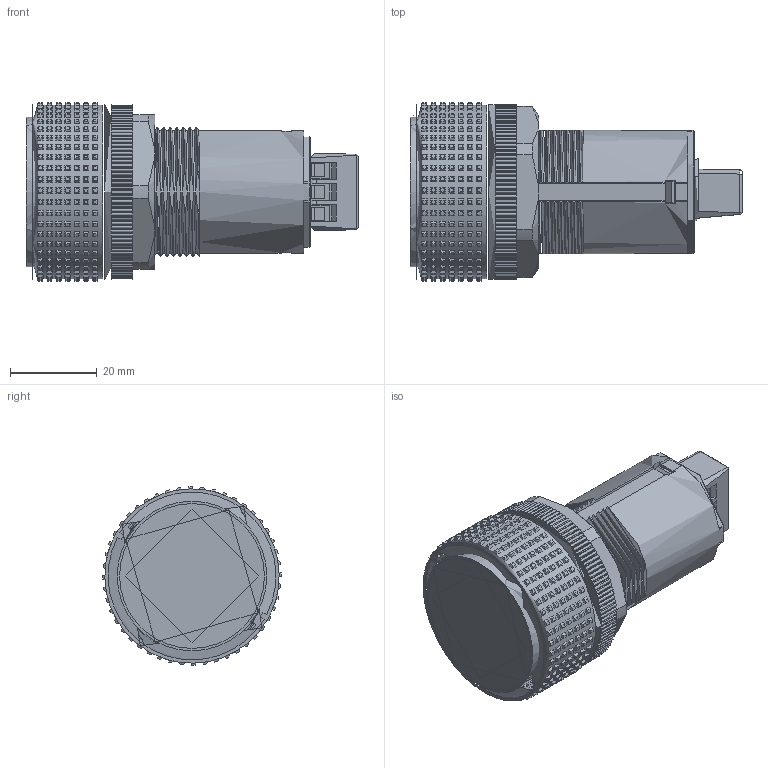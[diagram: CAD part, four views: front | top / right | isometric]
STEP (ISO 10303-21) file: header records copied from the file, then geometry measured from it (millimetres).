
FILE_DESCRIPTION((''),'2; 1');
FILE_NAME('','2026-03-26T17:26:34',(''),(''),'CST STEP Exporter V1.0','Unknown','');
FILE_SCHEMA(('CONFIG_CONTROL_DESIGN'));
Length unit declared in the file: metre
Assembly tree (15 placements, depth 2):
  (unnamed)
    (unnamed)
    (unnamed)
    (unnamed)
    (unnamed)
    (unnamed)
    (unnamed)
    (unnamed)
    (unnamed)
    (unnamed)
    (unnamed)
    (unnamed)
    (unnamed)
    (unnamed)
    (unnamed)
    (unnamed)
Bounding box: 76.33 x 41 x 41 mm (x, y, z)
Topology: 0 solids, 17 shells, 2440 faces, 6593 edges, 4472 vertices
Faces by surface type: cylinder 880, plane 803, cone 687, bspline 56, torus 14
Full cylindrical faces by diameter (mm): 3.5 x3, 22.22 x1, 34.4 x1, 34.8 x1, 40 x1, 40.098 x1, 40.1 x1
Entity records: 95751 total; most frequent: CARTESIAN_POINT 15374, ORIENTED_EDGE 12628, DIRECTION 12553, EDGE_CURVE 6555, AXIS2_PLACEMENT_3D 4481, VERTEX_POINT 4452, VECTOR 3591, LINE 3591
